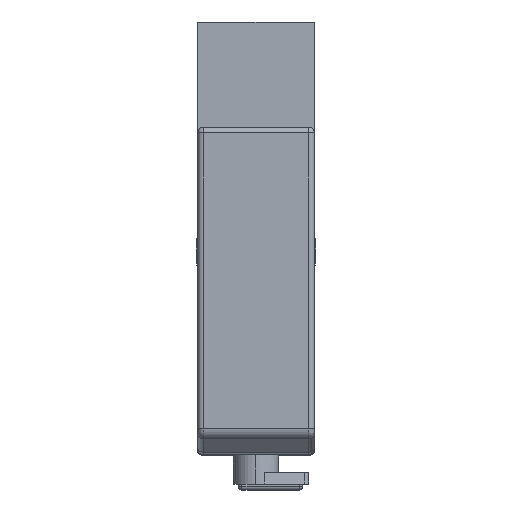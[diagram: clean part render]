
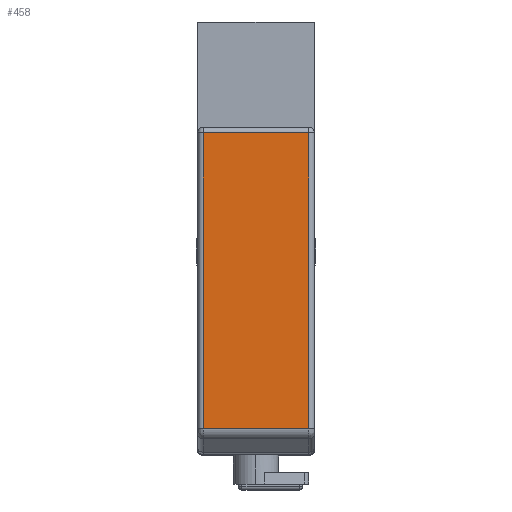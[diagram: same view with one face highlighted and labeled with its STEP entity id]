
A CAD part, top view. The second image highlights one B-rep face of the part: STEP entity #458.
In plain terms, the highlighted planar face has unit normal (0, 0, 1).
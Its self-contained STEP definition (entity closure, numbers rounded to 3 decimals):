
#458=ADVANCED_FACE('',(#2187),#2186,.F.);
#2186=PLANE('',#4284);
#2187=FACE_OUTER_BOUND('',#4285,.T.);
#4281=CARTESIAN_POINT('',(5.4,-27.283,27.4));
#4282=DIRECTION('',(0.,0.,-1.));
#4283=DIRECTION('',(-1.,0.,0.));
#4284=AXIS2_PLACEMENT_3D('',#4281,#4282,#4283);
#4285=EDGE_LOOP('',(#5890,#5891,#5892,#5893));
#5890=ORIENTED_EDGE('',*,*,#6869,.T.);
#5891=ORIENTED_EDGE('',*,*,#6833,.T.);
#5892=ORIENTED_EDGE('',*,*,#6870,.F.);
#5893=ORIENTED_EDGE('',*,*,#6854,.T.);
#6833=EDGE_CURVE('',#9848,#9861,#9868,.T.);
#6854=EDGE_CURVE('',#9979,#9999,#10006,.T.);
#6869=EDGE_CURVE('',#9999,#9848,#10101,.T.);
#6870=EDGE_CURVE('',#9979,#9861,#10107,.T.);
#9848=VERTEX_POINT('',#13321);
#9861=VERTEX_POINT('',#13330);
#9868=LINE('',#13335,#13336);
#9979=VERTEX_POINT('',#13407);
#9999=VERTEX_POINT('',#13421);
#10006=LINE('',#13426,#13427);
#10101=LINE('',#13479,#13480);
#10107=LINE('',#13482,#13483);
#13321=CARTESIAN_POINT('',(-4.5,0.5,27.4));
#13330=CARTESIAN_POINT('',(-4.5,-24.758,27.4));
#13335=CARTESIAN_POINT('',(-4.5,0.5,27.4));
#13336=VECTOR('',#13337,25.258);
#13337=DIRECTION('',(0.,-1.,0.));
#13407=CARTESIAN_POINT('',(4.5,-24.758,27.4));
#13421=CARTESIAN_POINT('',(4.5,0.5,27.4));
#13426=CARTESIAN_POINT('',(4.5,-24.758,27.4));
#13427=VECTOR('',#13428,25.258);
#13428=DIRECTION('',(0.,1.,0.));
#13479=CARTESIAN_POINT('',(4.5,0.5,27.4));
#13480=VECTOR('',#13481,9.);
#13481=DIRECTION('',(-1.,0.,0.));
#13482=CARTESIAN_POINT('',(4.5,-24.758,27.4));
#13483=VECTOR('',#13484,9.);
#13484=DIRECTION('',(-1.,0.,0.));
